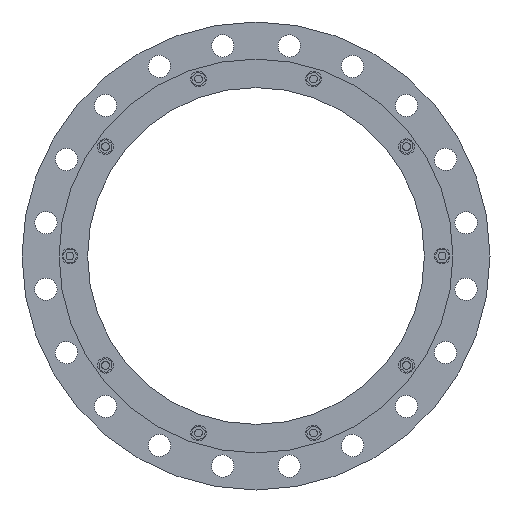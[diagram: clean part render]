
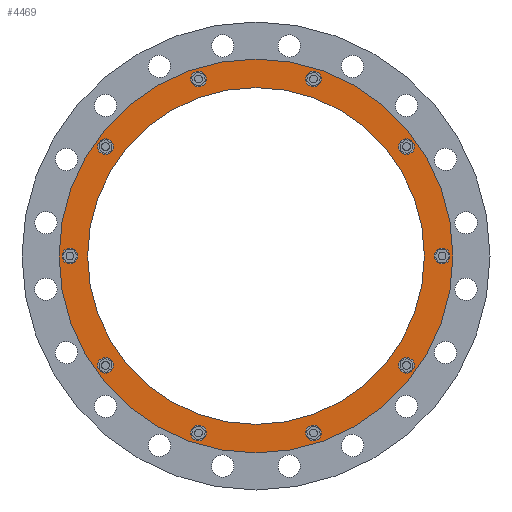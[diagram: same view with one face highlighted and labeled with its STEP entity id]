
A CAD part, front view. The second image highlights one B-rep face of the part: STEP entity #4469.
In plain terms, the highlighted planar face has unit normal (0, -1, 0).
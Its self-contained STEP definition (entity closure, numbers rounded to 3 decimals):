
#1100=CARTESIAN_POINT('',(0.,-94.452,0.));
#1101=DIRECTION('',(0.,-1.,0.));
#1102=DIRECTION('',(1.,0.,0.));
#1103=AXIS2_PLACEMENT_3D('',#1100,#1101,#1102);
#1105=CARTESIAN_POINT('',(0.,-94.452,0.));
#1106=DIRECTION('',(0.,1.,0.));
#1107=DIRECTION('',(1.,0.,0.));
#1108=AXIS2_PLACEMENT_3D('',#1105,#1106,#1107);
#1110=CARTESIAN_POINT('',(284.25,-94.452,0.));
#1111=DIRECTION('',(0.,-1.,0.));
#1112=DIRECTION('',(0.,0.,-1.));
#1113=AXIS2_PLACEMENT_3D('',#1110,#1111,#1112);
#1115=CARTESIAN_POINT('',(284.25,-94.452,0.));
#1116=DIRECTION('',(0.,-1.,0.));
#1117=DIRECTION('',(0.,0.,1.));
#1118=AXIS2_PLACEMENT_3D('',#1115,#1116,#1117);
#1120=CARTESIAN_POINT('',(229.963,-94.452,167.078));
#1121=DIRECTION('',(0.,-1.,0.));
#1122=DIRECTION('',(0.588,0.,-0.809));
#1123=AXIS2_PLACEMENT_3D('',#1120,#1121,#1122);
#1125=CARTESIAN_POINT('',(229.963,-94.452,167.078));
#1126=DIRECTION('',(0.,-1.,0.));
#1127=DIRECTION('',(-0.588,0.,0.809));
#1128=AXIS2_PLACEMENT_3D('',#1125,#1126,#1127);
#1130=CARTESIAN_POINT('',(87.838,-94.452,270.338));
#1131=DIRECTION('',(0.,-1.,0.));
#1132=DIRECTION('',(0.951,0.,-0.309));
#1133=AXIS2_PLACEMENT_3D('',#1130,#1131,#1132);
#1135=CARTESIAN_POINT('',(87.838,-94.452,270.338));
#1136=DIRECTION('',(0.,-1.,0.));
#1137=DIRECTION('',(-0.951,0.,0.309));
#1138=AXIS2_PLACEMENT_3D('',#1135,#1136,#1137);
#1140=CARTESIAN_POINT('',(-87.838,-94.452,270.338));
#1141=DIRECTION('',(0.,-1.,0.));
#1142=DIRECTION('',(0.951,0.,0.309));
#1143=AXIS2_PLACEMENT_3D('',#1140,#1141,#1142);
#1145=CARTESIAN_POINT('',(-87.838,-94.452,270.338));
#1146=DIRECTION('',(0.,-1.,0.));
#1147=DIRECTION('',(-0.951,0.,-0.309));
#1148=AXIS2_PLACEMENT_3D('',#1145,#1146,#1147);
#1150=CARTESIAN_POINT('',(-229.963,-94.452,167.078));
#1151=DIRECTION('',(0.,-1.,0.));
#1152=DIRECTION('',(0.588,0.,0.809));
#1153=AXIS2_PLACEMENT_3D('',#1150,#1151,#1152);
#1155=CARTESIAN_POINT('',(-229.963,-94.452,167.078));
#1156=DIRECTION('',(0.,-1.,0.));
#1157=DIRECTION('',(-0.588,0.,-0.809));
#1158=AXIS2_PLACEMENT_3D('',#1155,#1156,#1157);
#1160=CARTESIAN_POINT('',(-284.25,-94.452,0.));
#1161=DIRECTION('',(0.,-1.,0.));
#1162=DIRECTION('',(0.,0.,1.));
#1163=AXIS2_PLACEMENT_3D('',#1160,#1161,#1162);
#1165=CARTESIAN_POINT('',(-284.25,-94.452,0.));
#1166=DIRECTION('',(0.,-1.,0.));
#1167=DIRECTION('',(0.,0.,-1.));
#1168=AXIS2_PLACEMENT_3D('',#1165,#1166,#1167);
#1170=CARTESIAN_POINT('',(-229.963,-94.452,-167.078));
#1171=DIRECTION('',(0.,-1.,0.));
#1172=DIRECTION('',(-0.588,0.,0.809));
#1173=AXIS2_PLACEMENT_3D('',#1170,#1171,#1172);
#1175=CARTESIAN_POINT('',(-229.963,-94.452,-167.078));
#1176=DIRECTION('',(0.,-1.,0.));
#1177=DIRECTION('',(0.588,0.,-0.809));
#1178=AXIS2_PLACEMENT_3D('',#1175,#1176,#1177);
#1180=CARTESIAN_POINT('',(-87.838,-94.452,-270.338));
#1181=DIRECTION('',(0.,-1.,0.));
#1182=DIRECTION('',(-0.951,0.,0.309));
#1183=AXIS2_PLACEMENT_3D('',#1180,#1181,#1182);
#1185=CARTESIAN_POINT('',(-87.838,-94.452,-270.338));
#1186=DIRECTION('',(0.,-1.,0.));
#1187=DIRECTION('',(0.951,0.,-0.309));
#1188=AXIS2_PLACEMENT_3D('',#1185,#1186,#1187);
#1190=CARTESIAN_POINT('',(87.838,-94.452,-270.338));
#1191=DIRECTION('',(0.,-1.,0.));
#1192=DIRECTION('',(-0.951,0.,-0.309));
#1193=AXIS2_PLACEMENT_3D('',#1190,#1191,#1192);
#1195=CARTESIAN_POINT('',(87.838,-94.452,-270.338));
#1196=DIRECTION('',(0.,-1.,0.));
#1197=DIRECTION('',(0.951,0.,0.309));
#1198=AXIS2_PLACEMENT_3D('',#1195,#1196,#1197);
#1200=CARTESIAN_POINT('',(229.963,-94.452,-167.078));
#1201=DIRECTION('',(0.,-1.,0.));
#1202=DIRECTION('',(-0.588,0.,-0.809));
#1203=AXIS2_PLACEMENT_3D('',#1200,#1201,#1202);
#1205=CARTESIAN_POINT('',(229.963,-94.452,-167.078));
#1206=DIRECTION('',(0.,-1.,0.));
#1207=DIRECTION('',(0.588,0.,0.809));
#1208=AXIS2_PLACEMENT_3D('',#1205,#1206,#1207);
#1210=CARTESIAN_POINT('',(0.,-94.452,0.));
#1211=DIRECTION('',(0.,1.,0.));
#1212=DIRECTION('',(1.,0.,0.));
#1213=AXIS2_PLACEMENT_3D('',#1210,#1211,#1212);
#1223=CARTESIAN_POINT('',(0.,-94.452,0.));
#1224=DIRECTION('',(0.,-1.,0.));
#1225=DIRECTION('',(1.,0.,0.));
#1226=AXIS2_PLACEMENT_3D('',#1223,#1224,#1225);
#2967=CARTESIAN_POINT('',(300.85,-94.452,0.));
#2969=VERTEX_POINT('',#2967);
#2970=CARTESIAN_POINT('',(257.25,-94.452,0.));
#2972=VERTEX_POINT('',#2970);
#2979=CARTESIAN_POINT('',(-300.85,-94.452,0.));
#2981=VERTEX_POINT('',#2979);
#2982=CARTESIAN_POINT('',(-257.25,-94.452,0.));
#2984=VERTEX_POINT('',#2982);
#3021=CARTESIAN_POINT('',(284.25,-94.452,-12.));
#3022=CARTESIAN_POINT('',(284.25,-94.452,12.));
#3023=VERTEX_POINT('',#3021);
#3024=VERTEX_POINT('',#3022);
#3070=CARTESIAN_POINT('',(237.017,-94.452,157.37));
#3071=VERTEX_POINT('',#3070);
#3072=CARTESIAN_POINT('',(222.91,-94.452,176.786));
#3073=VERTEX_POINT('',#3072);
#3114=CARTESIAN_POINT('',(99.251,-94.452,266.63));
#3115=VERTEX_POINT('',#3114);
#3116=CARTESIAN_POINT('',(76.425,-94.452,274.046));
#3117=VERTEX_POINT('',#3116);
#3158=CARTESIAN_POINT('',(-76.425,-94.452,274.046));
#3159=VERTEX_POINT('',#3158);
#3160=CARTESIAN_POINT('',(-99.251,-94.452,266.63));
#3161=VERTEX_POINT('',#3160);
#3202=CARTESIAN_POINT('',(-222.91,-94.452,176.786));
#3203=VERTEX_POINT('',#3202);
#3204=CARTESIAN_POINT('',(-237.017,-94.452,157.37));
#3205=VERTEX_POINT('',#3204);
#3246=CARTESIAN_POINT('',(-284.25,-94.452,12.));
#3247=VERTEX_POINT('',#3246);
#3248=CARTESIAN_POINT('',(-284.25,-94.452,-12.));
#3249=VERTEX_POINT('',#3248);
#3290=CARTESIAN_POINT('',(-237.017,-94.452,-157.37));
#3291=VERTEX_POINT('',#3290);
#3292=CARTESIAN_POINT('',(-222.91,-94.452,-176.786));
#3293=VERTEX_POINT('',#3292);
#3334=CARTESIAN_POINT('',(-99.251,-94.452,-266.63));
#3335=VERTEX_POINT('',#3334);
#3336=CARTESIAN_POINT('',(-76.425,-94.452,-274.046));
#3337=VERTEX_POINT('',#3336);
#3549=CARTESIAN_POINT('',(76.425,-94.452,-274.046));
#3550=VERTEX_POINT('',#3549);
#3551=CARTESIAN_POINT('',(99.251,-94.452,-266.63));
#3552=VERTEX_POINT('',#3551);
#3593=CARTESIAN_POINT('',(222.91,-94.452,-176.786));
#3594=VERTEX_POINT('',#3593);
#3595=CARTESIAN_POINT('',(237.017,-94.452,-157.37));
#3596=VERTEX_POINT('',#3595);
#4394=CARTESIAN_POINT('',(0.,-94.452,0.));
#4395=DIRECTION('',(0.,1.,0.));
#4396=DIRECTION('',(-1.,0.,0.));
#4397=AXIS2_PLACEMENT_3D('',#4394,#4395,#4396);
#4398=PLANE('',#4397);
#4400=ORIENTED_EDGE('',*,*,#4399,.F.);
#4402=ORIENTED_EDGE('',*,*,#4401,.T.);
#4403=EDGE_LOOP('',(#4400,#4402));
#4404=FACE_OUTER_BOUND('',#4403,.F.);
#4406=ORIENTED_EDGE('',*,*,#4405,.F.);
#4408=ORIENTED_EDGE('',*,*,#4407,.T.);
#4409=EDGE_LOOP('',(#4406,#4408));
#4410=FACE_BOUND('',#4409,.F.);
#4412=ORIENTED_EDGE('',*,*,#4411,.T.);
#4414=ORIENTED_EDGE('',*,*,#4413,.T.);
#4415=EDGE_LOOP('',(#4412,#4414));
#4416=FACE_BOUND('',#4415,.F.);
#4418=ORIENTED_EDGE('',*,*,#4417,.T.);
#4420=ORIENTED_EDGE('',*,*,#4419,.T.);
#4421=EDGE_LOOP('',(#4418,#4420));
#4422=FACE_BOUND('',#4421,.F.);
#4424=ORIENTED_EDGE('',*,*,#4423,.T.);
#4426=ORIENTED_EDGE('',*,*,#4425,.T.);
#4427=EDGE_LOOP('',(#4424,#4426));
#4428=FACE_BOUND('',#4427,.F.);
#4430=ORIENTED_EDGE('',*,*,#4429,.T.);
#4432=ORIENTED_EDGE('',*,*,#4431,.T.);
#4433=EDGE_LOOP('',(#4430,#4432));
#4434=FACE_BOUND('',#4433,.F.);
#4436=ORIENTED_EDGE('',*,*,#4435,.T.);
#4438=ORIENTED_EDGE('',*,*,#4437,.T.);
#4439=EDGE_LOOP('',(#4436,#4438));
#4440=FACE_BOUND('',#4439,.F.);
#4442=ORIENTED_EDGE('',*,*,#4441,.T.);
#4444=ORIENTED_EDGE('',*,*,#4443,.T.);
#4445=EDGE_LOOP('',(#4442,#4444));
#4446=FACE_BOUND('',#4445,.F.);
#4448=ORIENTED_EDGE('',*,*,#4447,.T.);
#4450=ORIENTED_EDGE('',*,*,#4449,.T.);
#4451=EDGE_LOOP('',(#4448,#4450));
#4452=FACE_BOUND('',#4451,.F.);
#4454=ORIENTED_EDGE('',*,*,#4453,.T.);
#4456=ORIENTED_EDGE('',*,*,#4455,.T.);
#4457=EDGE_LOOP('',(#4454,#4456));
#4458=FACE_BOUND('',#4457,.F.);
#4459=ORIENTED_EDGE('',*,*,#4376,.T.);
#4460=ORIENTED_EDGE('',*,*,#4387,.T.);
#4461=EDGE_LOOP('',(#4459,#4460));
#4462=FACE_BOUND('',#4461,.F.);
#4464=ORIENTED_EDGE('',*,*,#4463,.T.);
#4466=ORIENTED_EDGE('',*,*,#4465,.T.);
#4467=EDGE_LOOP('',(#4464,#4466));
#4468=FACE_BOUND('',#4467,.F.);
#4469=ADVANCED_FACE('',(#4404,#4410,#4416,#4422,#4428,#4434,#4440,#4446,#4452,
#4458,#4462,#4468),#4398,.F.);
#1104=CIRCLE('',#1103,300.85);
#1109=CIRCLE('',#1108,300.85);
#1114=CIRCLE('',#1113,12.);
#1119=CIRCLE('',#1118,12.);
#1124=CIRCLE('',#1123,12.);
#1129=CIRCLE('',#1128,12.);
#1134=CIRCLE('',#1133,12.);
#1139=CIRCLE('',#1138,12.);
#1144=CIRCLE('',#1143,12.);
#1149=CIRCLE('',#1148,12.);
#1154=CIRCLE('',#1153,12.);
#1159=CIRCLE('',#1158,12.);
#1164=CIRCLE('',#1163,12.);
#1169=CIRCLE('',#1168,12.);
#1174=CIRCLE('',#1173,12.);
#1179=CIRCLE('',#1178,12.);
#1184=CIRCLE('',#1183,12.);
#1189=CIRCLE('',#1188,12.);
#1194=CIRCLE('',#1193,12.);
#1199=CIRCLE('',#1198,12.);
#1204=CIRCLE('',#1203,12.);
#1209=CIRCLE('',#1208,12.);
#1214=CIRCLE('',#1213,257.25);
#1227=CIRCLE('',#1226,257.25);
#4376=EDGE_CURVE('',#3550,#3552,#1194,.T.);
#4387=EDGE_CURVE('',#3552,#3550,#1199,.T.);
#4399=EDGE_CURVE('',#2969,#2981,#1104,.T.);
#4401=EDGE_CURVE('',#2969,#2981,#1109,.T.);
#4405=EDGE_CURVE('',#2972,#2984,#1214,.T.);
#4407=EDGE_CURVE('',#2972,#2984,#1227,.T.);
#4411=EDGE_CURVE('',#3023,#3024,#1114,.T.);
#4413=EDGE_CURVE('',#3024,#3023,#1119,.T.);
#4417=EDGE_CURVE('',#3071,#3073,#1124,.T.);
#4419=EDGE_CURVE('',#3073,#3071,#1129,.T.);
#4423=EDGE_CURVE('',#3115,#3117,#1134,.T.);
#4425=EDGE_CURVE('',#3117,#3115,#1139,.T.);
#4429=EDGE_CURVE('',#3159,#3161,#1144,.T.);
#4431=EDGE_CURVE('',#3161,#3159,#1149,.T.);
#4435=EDGE_CURVE('',#3203,#3205,#1154,.T.);
#4437=EDGE_CURVE('',#3205,#3203,#1159,.T.);
#4441=EDGE_CURVE('',#3247,#3249,#1164,.T.);
#4443=EDGE_CURVE('',#3249,#3247,#1169,.T.);
#4447=EDGE_CURVE('',#3291,#3293,#1174,.T.);
#4449=EDGE_CURVE('',#3293,#3291,#1179,.T.);
#4453=EDGE_CURVE('',#3335,#3337,#1184,.T.);
#4455=EDGE_CURVE('',#3337,#3335,#1189,.T.);
#4463=EDGE_CURVE('',#3594,#3596,#1204,.T.);
#4465=EDGE_CURVE('',#3596,#3594,#1209,.T.);
